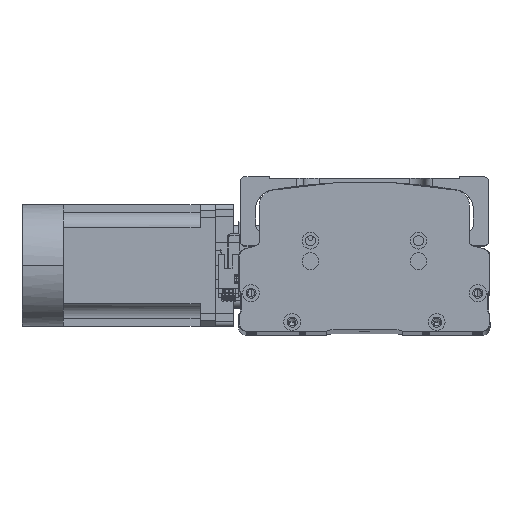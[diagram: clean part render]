
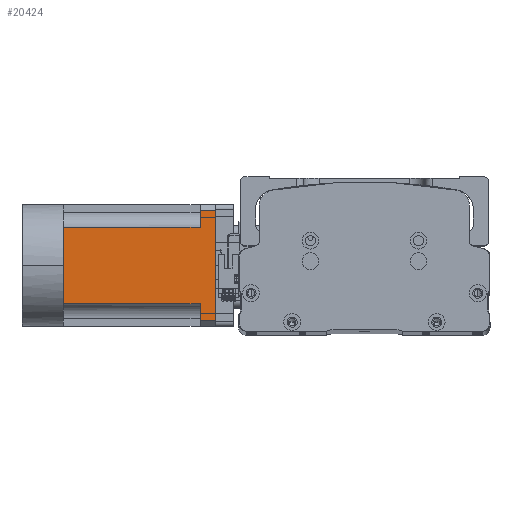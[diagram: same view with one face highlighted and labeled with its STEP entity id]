
A CAD part, top view. The second image highlights one B-rep face of the part: STEP entity #20424.
In plain terms, the highlighted planar face has unit normal (0, -0.003, 1) as drawn and (0, 0, -1) by its records, which use the part's own axes.
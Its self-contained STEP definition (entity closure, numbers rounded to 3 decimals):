
#1060 = EDGE_CURVE ( 'NONE', #9551, #46375, #44358, .T. ) ;
#1267 = CARTESIAN_POINT ( 'NONE',  ( 36., 100., -40. ) ) ;
#1858 = EDGE_CURVE ( 'NONE', #43984, #33911, #21227, .T. ) ;
#3049 = DIRECTION ( 'NONE',  ( -1., 0., 0. ) ) ;
#3060 = CARTESIAN_POINT ( 'NONE',  ( -40., 100., -40. ) ) ;
#3994 = VECTOR ( 'NONE', #42864, 1000. ) ;
#4293 = VERTEX_POINT ( 'NONE', #35279 ) ;
#5074 = LINE ( 'NONE', #18003, #38628 ) ;
#7810 = LINE ( 'NONE', #42945, #28947 ) ;
#8096 = CARTESIAN_POINT ( 'NONE',  ( -25., 90., -40. ) ) ;
#9313 = FACE_OUTER_BOUND ( 'NONE', #17083, .T. ) ;
#9551 = VERTEX_POINT ( 'NONE', #31746 ) ;
#10270 = EDGE_CURVE ( 'NONE', #38475, #9551, #45545, .T. ) ;
#10535 = ORIENTED_EDGE ( 'NONE', *, *, #33513, .T. ) ;
#10668 = VECTOR ( 'NONE', #3049, 1000. ) ;
#11070 = EDGE_CURVE ( 'NONE', #16108, #43984, #38627, .T. ) ;
#11667 = ORIENTED_EDGE ( 'NONE', *, *, #40917, .T. ) ;
#13623 = CARTESIAN_POINT ( 'NONE',  ( -40., 90., -40. ) ) ;
#14654 = CARTESIAN_POINT ( 'NONE',  ( -25., -27., -40. ) ) ;
#15398 = CARTESIAN_POINT ( 'NONE',  ( -36., 100., -40. ) ) ;
#15410 = DIRECTION ( 'NONE',  ( 0., -1., 0. ) ) ;
#15768 = DIRECTION ( 'NONE',  ( -1., 0., 0. ) ) ;
#15986 = VECTOR ( 'NONE', #42512, 1000. ) ;
#16108 = VERTEX_POINT ( 'NONE', #44878 ) ;
#16508 = LINE ( 'NONE', #35237, #36403 ) ;
#17083 = EDGE_LOOP ( 'NONE', ( #31923, #10535, #49447, #39043, #24157, #11667, #48555, #34974, #46579 ) ) ;
#17499 = EDGE_CURVE ( 'NONE', #4293, #38475, #37122, .T. ) ;
#18003 = CARTESIAN_POINT ( 'NONE',  ( -40., 90., -40. ) ) ;
#18317 = LINE ( 'NONE', #3060, #3994 ) ;
#18716 = CARTESIAN_POINT ( 'NONE',  ( 0., 0., -40. ) ) ;
#20194 = CARTESIAN_POINT ( 'NONE',  ( 25., -27., -40. ) ) ;
#20424 = ADVANCED_FACE ( 'NONE', ( #9313 ), #43408, .T. ) ;
#21225 = VECTOR ( 'NONE', #44006, 1000. ) ;
#21227 = LINE ( 'NONE', #26322, #10668 ) ;
#24157 = ORIENTED_EDGE ( 'NONE', *, *, #1858, .T. ) ;
#24411 = VECTOR ( 'NONE', #33425, 1000. ) ;
#26322 = CARTESIAN_POINT ( 'NONE',  ( -40., 0., -40. ) ) ;
#28947 = VECTOR ( 'NONE', #46938, 1000. ) ;
#28951 = EDGE_CURVE ( 'NONE', #38880, #16108, #5074, .T. ) ;
#29821 = DIRECTION ( 'NONE',  ( -1., 0., 0. ) ) ;
#31746 = CARTESIAN_POINT ( 'NONE',  ( -36., 90., -40. ) ) ;
#31923 = ORIENTED_EDGE ( 'NONE', *, *, #33963, .F. ) ;
#33425 = DIRECTION ( 'NONE',  ( -1., 0., 0. ) ) ;
#33513 = EDGE_CURVE ( 'NONE', #45556, #38880, #16508, .T. ) ;
#33911 = VERTEX_POINT ( 'NONE', #18716 ) ;
#33963 = EDGE_CURVE ( 'NONE', #45556, #46375, #18317, .T. ) ;
#34974 = ORIENTED_EDGE ( 'NONE', *, *, #10270, .T. ) ;
#35237 = CARTESIAN_POINT ( 'NONE',  ( 36., -27., -40. ) ) ;
#35279 = CARTESIAN_POINT ( 'NONE',  ( -25., 0., -40. ) ) ;
#35416 = CARTESIAN_POINT ( 'NONE',  ( -40., -27., -40. ) ) ;
#36403 = VECTOR ( 'NONE', #15410, 1000. ) ;
#36637 = CARTESIAN_POINT ( 'NONE',  ( -36., -27., -40. ) ) ;
#37122 = LINE ( 'NONE', #14654, #15986 ) ;
#38475 = VERTEX_POINT ( 'NONE', #8096 ) ;
#38627 = LINE ( 'NONE', #20194, #21225 ) ;
#38628 = VECTOR ( 'NONE', #29821, 1000. ) ;
#38880 = VERTEX_POINT ( 'NONE', #51515 ) ;
#39043 = ORIENTED_EDGE ( 'NONE', *, *, #11070, .T. ) ;
#39557 = DIRECTION ( 'NONE',  ( 0., 0., -1. ) ) ;
#40037 = CARTESIAN_POINT ( 'NONE',  ( 25., 0., -40. ) ) ;
#40820 = DIRECTION ( 'NONE',  ( 0., 1., 0. ) ) ;
#40917 = EDGE_CURVE ( 'NONE', #33911, #4293, #7810, .T. ) ;
#42512 = DIRECTION ( 'NONE',  ( 0., 1., 0. ) ) ;
#42864 = DIRECTION ( 'NONE',  ( -1., 0., 0. ) ) ;
#42945 = CARTESIAN_POINT ( 'NONE',  ( -40., 0., -40. ) ) ;
#43408 = PLANE ( 'NONE',  #47893 ) ;
#43984 = VERTEX_POINT ( 'NONE', #40037 ) ;
#44006 = DIRECTION ( 'NONE',  ( 0., -1., 0. ) ) ;
#44358 = LINE ( 'NONE', #36637, #49998 ) ;
#44878 = CARTESIAN_POINT ( 'NONE',  ( 25., 90., -40. ) ) ;
#45545 = LINE ( 'NONE', #13623, #24411 ) ;
#45556 = VERTEX_POINT ( 'NONE', #1267 ) ;
#46375 = VERTEX_POINT ( 'NONE', #15398 ) ;
#46579 = ORIENTED_EDGE ( 'NONE', *, *, #1060, .T. ) ;
#46938 = DIRECTION ( 'NONE',  ( -1., 0., 0. ) ) ;
#47893 = AXIS2_PLACEMENT_3D ( 'NONE', #35416, #39557, #15768 ) ;
#48555 = ORIENTED_EDGE ( 'NONE', *, *, #17499, .T. ) ;
#49447 = ORIENTED_EDGE ( 'NONE', *, *, #28951, .T. ) ;
#49998 = VECTOR ( 'NONE', #40820, 1000. ) ;
#51515 = CARTESIAN_POINT ( 'NONE',  ( 36., 90., -40. ) ) ;
